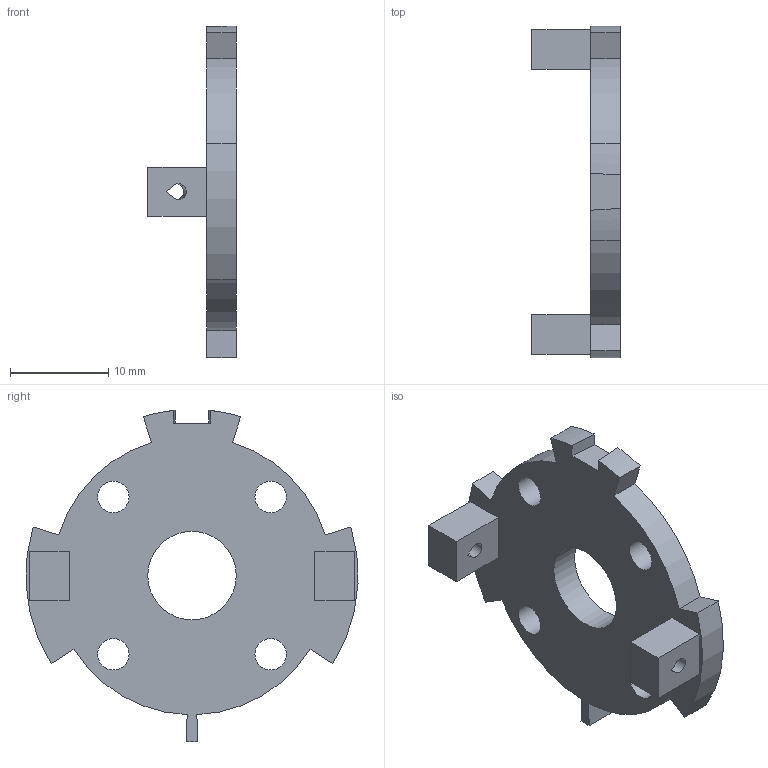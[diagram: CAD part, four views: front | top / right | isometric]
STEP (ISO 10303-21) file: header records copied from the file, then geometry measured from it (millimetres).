
FILE_DESCRIPTION(('SkyG Speed 120B - revision C7B-1 - 2026-10-09','M1-motor-plate'),'2;1');
FILE_NAME('M1-motor-plate_C7B-1','2026-10-09T15:13:01',('Author'),( 'Open CASCADE'),'Open CASCADE STEP processor 7.9','Open CASCADE 7.9' ,'Unknown');
FILE_SCHEMA(('AUTOMOTIVE_DESIGN { 1 0 10303 214 1 1 1 1 }'));
Length unit declared in the file: millimetre
Products named in the file (1): M1-motor-plate C7B-1
Bounding box: 9 x 33.77 x 33.71 mm (x, y, z)
Volume: 2111.2 mm3; surface area: 2076.5 mm2
Topology: 1 solids, 1 shells, 43 faces, 121 edges, 82 vertices
Faces by surface type: plane 25, cylinder 16, bspline 2
Full cylindrical faces by diameter (mm): 3.2 x4, 9 x1
Entity records: 3356 total; most frequent: CARTESIAN_POINT 1105, DIRECTION 349, ORIENTED_EDGE 242, PCURVE 242, DEFINITIONAL_REPRESENTATION 242, LINE 157, VECTOR 157, B_SPLINE_CURVE_WITH_KNOTS 134
